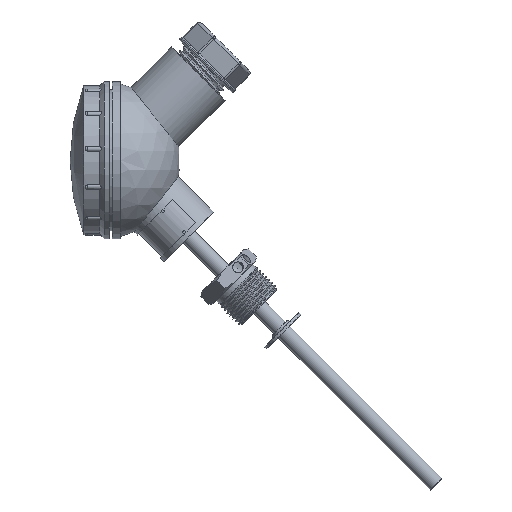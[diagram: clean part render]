
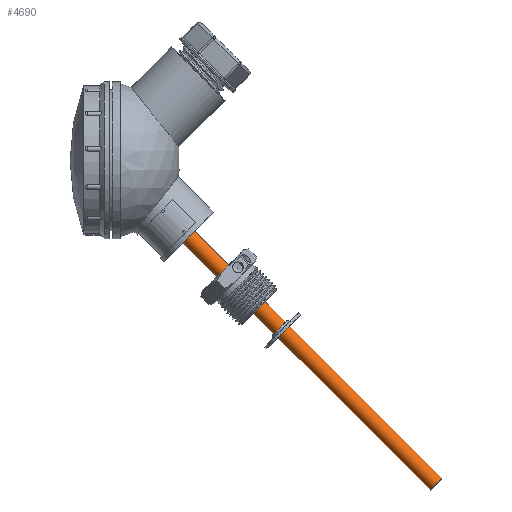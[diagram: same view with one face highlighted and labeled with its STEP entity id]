
A CAD part, left-side view. The second image highlights one B-rep face of the part: STEP entity #4690.
In plain terms, the highlighted cylindrical face has radius 3 mm (diameter 6 mm), a full revolution.
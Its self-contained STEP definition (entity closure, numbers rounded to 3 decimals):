
#4690=ADVANCED_FACE('',(#17950,#17952),#17954,.T.);
#17950=FACE_OUTER_BOUND('',#17951,.T.);
#17951=EDGE_LOOP('',(#20781));
#17952=FACE_OUTER_BOUND('',#17953,.T.);
#17953=EDGE_LOOP('',(#20782));
#17954=CYLINDRICAL_SURFACE('',#17955,3.);
#17955=AXIS2_PLACEMENT_3D('',#17956,#17957,#17958);
#17956=CARTESIAN_POINT('',(0.,0.,-11.));
#17957=DIRECTION('',(0.,0.,1.));
#17958=DIRECTION('',(1.,0.,0.));
#20781=ORIENTED_EDGE('',*,*,#21950,.F.);
#20782=ORIENTED_EDGE('',*,*,#21951,.T.);
#21950=EDGE_CURVE('',#23685,#23685,#23686,.T.);
#21951=EDGE_CURVE('',#23687,#23687,#23688,.T.);
#23685=VERTEX_POINT('',#85114);
#23686=CIRCLE('',#85115,3.);
#23687=VERTEX_POINT('',#85119);
#23688=CIRCLE('',#85120,3.);
#85114=CARTESIAN_POINT('',(3.,0.,120.8));
#85115=AXIS2_PLACEMENT_3D('',#85116,#85117,#85118);
#85116=CARTESIAN_POINT('',(0.,0.,120.8));
#85117=DIRECTION('',(0.,0.,1.));
#85118=DIRECTION('',(1.,0.,0.));
#85119=CARTESIAN_POINT('',(3.,0.,-11.));
#85120=AXIS2_PLACEMENT_3D('',#85121,#85122,#85123);
#85121=CARTESIAN_POINT('',(0.,0.,-11.));
#85122=DIRECTION('',(0.,0.,1.));
#85123=DIRECTION('',(1.,0.,0.));
